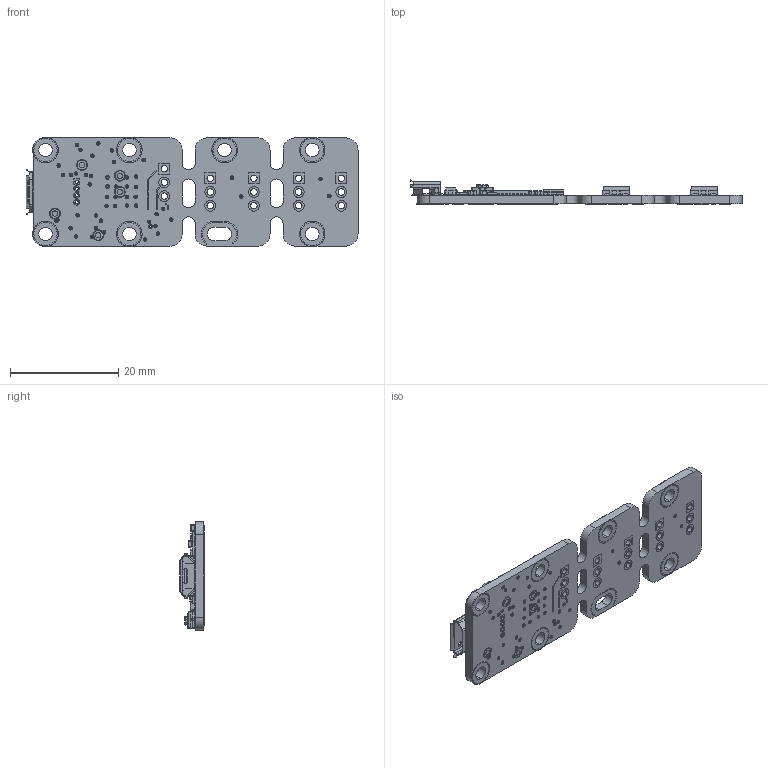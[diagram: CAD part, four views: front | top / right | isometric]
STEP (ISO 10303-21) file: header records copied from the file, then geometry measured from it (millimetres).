
FILE_DESCRIPTION (( 'STEP AP214' ), '1' );
FILE_NAME ('YRGBLED2.STEP', '2016-04-21T14:38:47', ( 'martinm' ), ( '' ), 'SwSTEP 2.0', 'SolidWorks 2008', '' );
FILE_SCHEMA (( 'AUTOMOTIVE_DESIGN' ));
Length unit declared in the file: millimetre
Products named in the file (28): PCB; C1; C4; C16; C17; C18; C19; C31; CPU1; R1; R3; R5; R7; R8; R12; R15; R18; R28; R29; REG1; RGB2; T1; T2; USB1; YBUTTON; YLED; sens1; YRGBLED2
Assembly tree (37 placements, depth 2):
  YRGBLED2
    C17  x7
    R29
    C16
    REG1
    PCB
    C4  x2
    R15
    R18  x2
    C31
    R8
    T1
    R12
    sens1
    RGB2  x2
    R1
    R3  x2
    USB1
    R5
    YBUTTON
    CPU1
    C1
    T2
    R28
    YLED
    C18
    C19
    R7
Bounding box: 61.35 x 4.46 x 20.2 mm (x, y, z)
Volume: 1921.8 mm3; surface area: 3802.5 mm2
Topology: 51 solids, 51 shells, 5486 faces, 14129 edges, 9138 vertices
Faces by surface type: plane 3363, cylinder 1521, bspline 479, sphere 112, torus 7, cone 4
Entity records: 222947 total; most frequent: CARTESIAN_POINT 53700, ORIENTED_EDGE 25542, DIRECTION 23744, EDGE_CURVE 12771, LINE 9012, VECTOR 9012, VERTEX_POINT 8397, AXIS2_PLACEMENT_3D 7366
